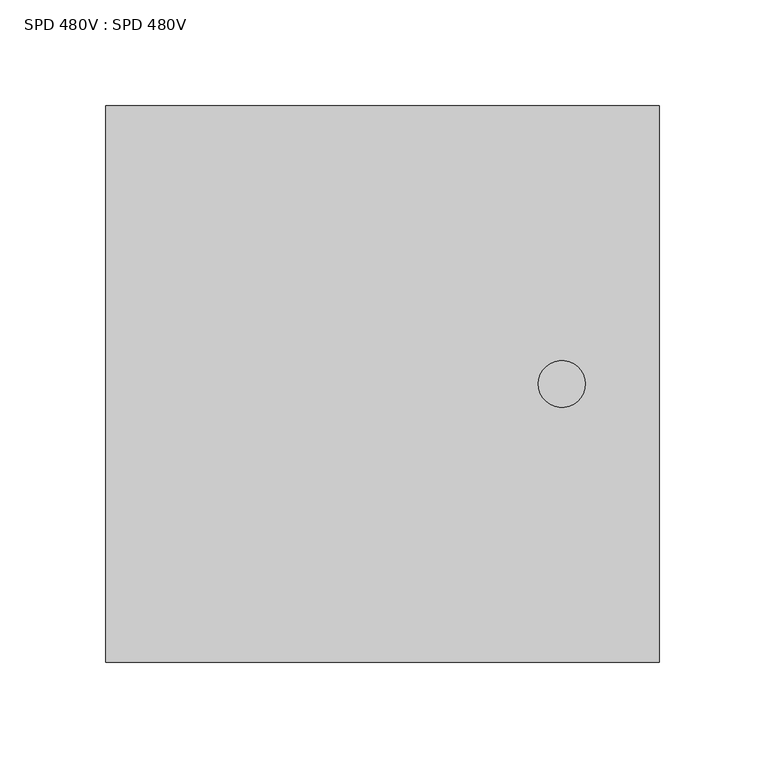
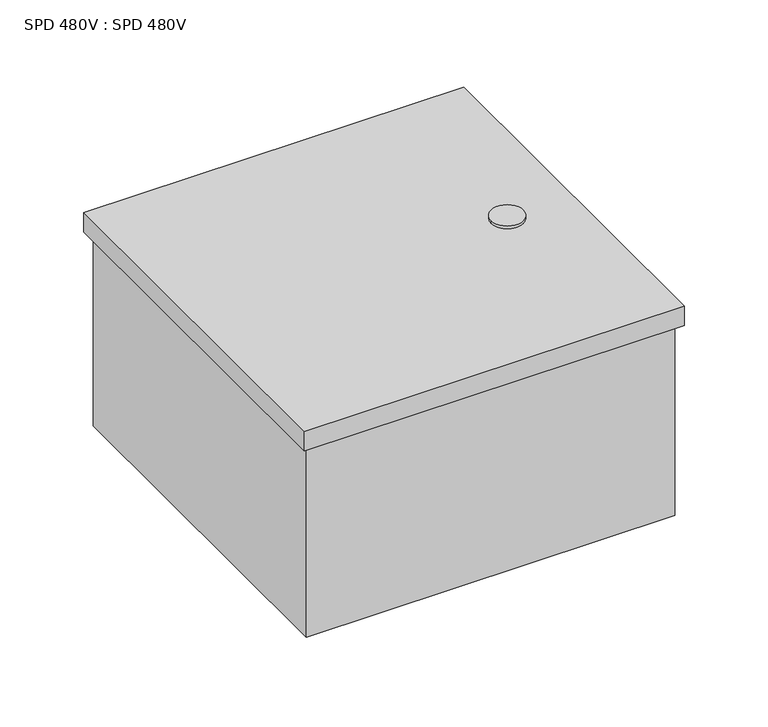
"""IFC4 building model written with IfcOpenShell, lengths in millimetres: proxy geometry, SPD 480V : SPD 480V."""

from ifc_helpers import new_model, si_unit, point, frame, frame_2d, origin, origin_with_axes, place, context, project, spatial, polyline, circle_curve, trimmed, segment, composite_curve, outline, extrude, source, transform, mapped, element, save


def spd_480v_spd_480v_f5128685(model_context):
    return source(origin(), model_context, "Body", "SweptSolid", [
        extrude(outline(polyline([(127.0, -127.0), (-127.0, -127.0), (-127.0, 127.0), (127.0, 127.0), (127.0, -127.0)])), origin_with_axes(), (0.0, 0.0, 1.0), 139.7635),
        extrude(outline(polyline([(130.8199219, -131.5640625), (-130.8199219, -131.5640625), (-130.8199219, 131.5640625), (130.8199219, 131.5640625), (130.8199219, -131.5640625)])), frame((0.0, 0.0, 139.7635), z_axis=(0.0, 0.0, 1.0), x_axis=(1.0, 0.0, 0.0)), (0.0, 0.0, 1.0), 14.224),
        extrude(outline(composite_curve([segment(trimmed(circle_curve(frame_2d((84.8459219, 0.0)), 11.1125), [point((95.9584219, 0.0))], [point((73.7334219, 0.0))], False, "CARTESIAN"), True, "CONTINUOUS"), segment(trimmed(circle_curve(frame_2d((84.8459219, 0.0)), 11.1125), [point((73.7334219, 0.0))], [point((95.9584219, 0.0))], False, "CARTESIAN"), True, "CONTINUOUS")], self_intersect=False)), frame((0.0, 0.0, 153.9875), z_axis=(0.0, 0.0, 1.0), x_axis=(1.0, 0.0, 0.0)), (0.0, 0.0, 1.0), 2.38125),
    ])


if __name__ == "__main__":
    model = new_model("IFC4")
    model_context = context("Model", 3, world=origin())
    ifc_project = project(units=[si_unit("LENGTHUNIT", "METRE", prefix="MILLI")], contexts=[model_context])
    site = spatial("IfcSite", under=ifc_project)
    building = spatial("IfcBuilding", under=site)
    placement = place(None, origin())
    spd_480v_spd_480v_shape = spd_480v_spd_480v_f5128685(model_context)
    element("IfcBuildingElementProxy", 1, Name="SPD 480V : SPD 480V", ObjectType="SPD 480V : SPD 480V", at=placement, inside=building, context=model_context, shape_type="MappedRepresentation", body=[
        mapped(spd_480v_spd_480v_shape, transform((0.0, 0.0, 0.0), x_axis=(1.0, 0.0, 0.0), y_axis=(0.0, 1.0, 0.0), z_axis=(0.0, 0.0, 1.0))),
    ])
    save(model, "model.ifc")
